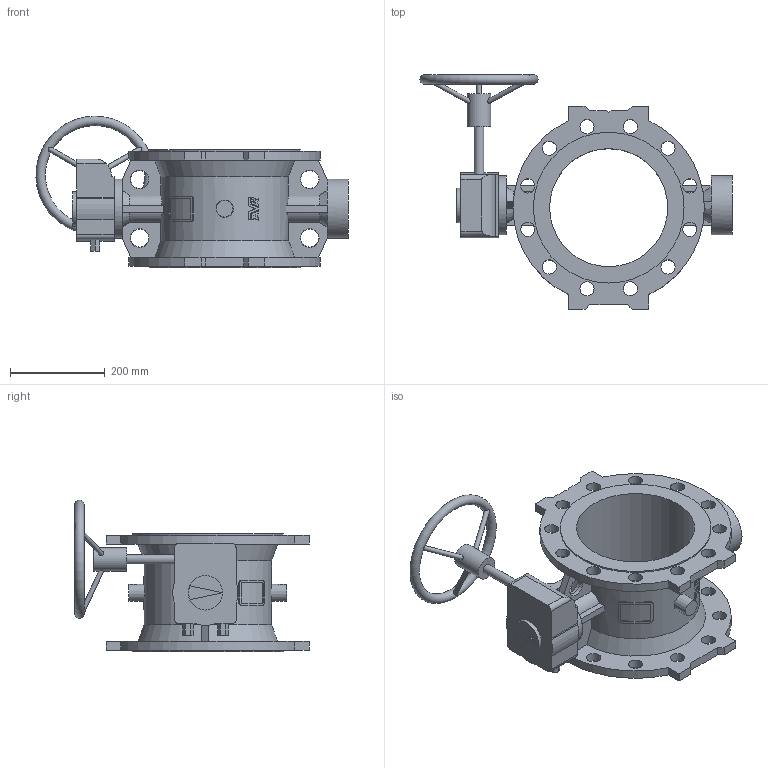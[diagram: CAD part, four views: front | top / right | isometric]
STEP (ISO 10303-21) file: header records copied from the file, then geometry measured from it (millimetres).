
FILE_DESCRIPTION (( 'STEP AP203' ), '1' );
FILE_NAME ('O_756_1_DN250_1XX00_AA0_step.step', '2016-03-04T11:28:48', ( 'Windows User' ), ( 'AVK' ), 'SwSTEP 2.0', 'SolidWorks 2012', '' );
FILE_SCHEMA (( 'CONFIG_CONTROL_DESIGN' ));
Length unit declared in the file: millimetre
Products named in the file (1): O_756_1_DN250_1XX00_AA0_step
Bounding box: 660.36 x 496.5 x 320.96 mm (x, y, z)
Volume: 8978636.9 mm3; surface area: 1025752.8 mm2
Topology: 1 solids, 1 shells, 359 faces, 1029 edges, 695 vertices
Faces by surface type: plane 180, bspline 86, cylinder 70, cone 22, torus 1
Full cylindrical faces by diameter (mm): 10 x3, 20 x1, 30 x24, 50 x1, 73 x1, 125 x2, 250 x1, 319 x2
Entity records: 16145 total; most frequent: CARTESIAN_POINT 7592, ORIENTED_EDGE 1896, DIRECTION 1382, EDGE_CURVE 948, VERTEX_POINT 660, LINE 506, VECTOR 506, EDGE_LOOP 490
